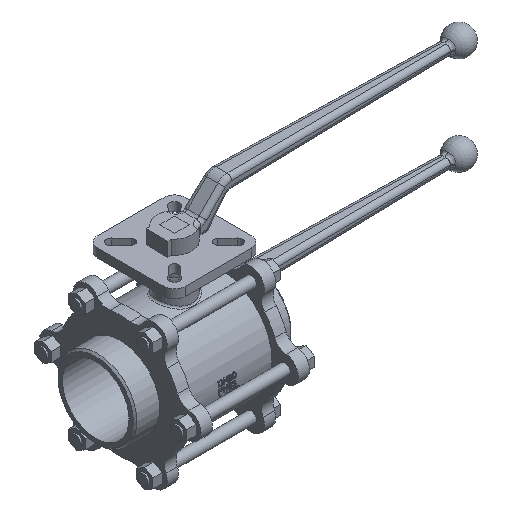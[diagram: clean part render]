
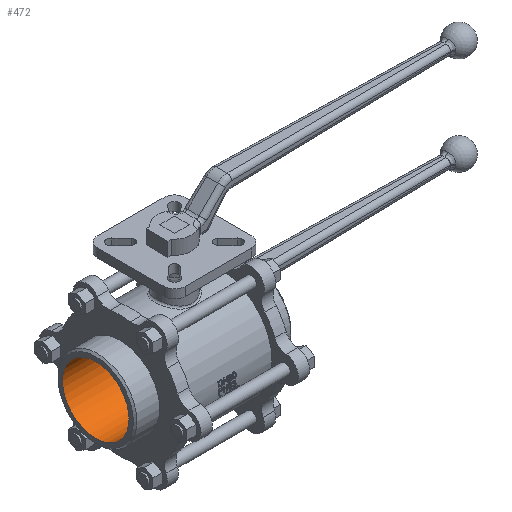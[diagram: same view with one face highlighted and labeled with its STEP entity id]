
A CAD part, isometric view. The second image highlights one B-rep face of the part: STEP entity #472.
In plain terms, the highlighted cylindrical face has radius 38 mm (diameter 76 mm), a full revolution.
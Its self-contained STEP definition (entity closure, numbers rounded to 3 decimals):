
#472 = ADVANCED_FACE( '', ( #1283, #1284 ), #1285, .F. );
#1283 = FACE_OUTER_BOUND( '', #2673, .T. );
#1284 = FACE_OUTER_BOUND( '', #2674, .T. );
#1285 = CYLINDRICAL_SURFACE( '', #2675, 38. );
#2673 = EDGE_LOOP( '', ( #7435 ) );
#2674 = EDGE_LOOP( '', ( #7436 ) );
#2675 = AXIS2_PLACEMENT_3D( '', #7437, #7438, #7439 );
#7435 = ORIENTED_EDGE( '', *, *, #10364, .T. );
#7436 = ORIENTED_EDGE( '', *, *, #10456, .F. );
#7437 = CARTESIAN_POINT( '', ( 200.699, 0., 0. ) );
#7438 = DIRECTION( '', ( 1., 0., 0. ) );
#7439 = DIRECTION( '', ( 0., -1., 0. ) );
#10364 = EDGE_CURVE( '', #11665, #11665, #11666, .F. );
#10456 = EDGE_CURVE( '', #11831, #11831, #11832, .T. );
#11665 = VERTEX_POINT( '', #13680 );
#11666 = CIRCLE( '', #13681, 38. );
#11831 = VERTEX_POINT( '', #14149 );
#11832 = CIRCLE( '', #14150, 38. );
#13680 = CARTESIAN_POINT( '', ( 90., -38., 0. ) );
#13681 = AXIS2_PLACEMENT_3D( '', #19524, #19525, #19526 );
#14149 = CARTESIAN_POINT( '', ( -90., -38., 0. ) );
#14150 = AXIS2_PLACEMENT_3D( '', #19637, #19638, #19639 );
#19524 = CARTESIAN_POINT( '', ( 90., 0., 0. ) );
#19525 = DIRECTION( '', ( -1., 0., 0. ) );
#19526 = DIRECTION( '', ( 0., -1., 0. ) );
#19637 = CARTESIAN_POINT( '', ( -90., 0., 0. ) );
#19638 = DIRECTION( '', ( 1., 0., 0. ) );
#19639 = DIRECTION( '', ( 0., -1., 0. ) );
